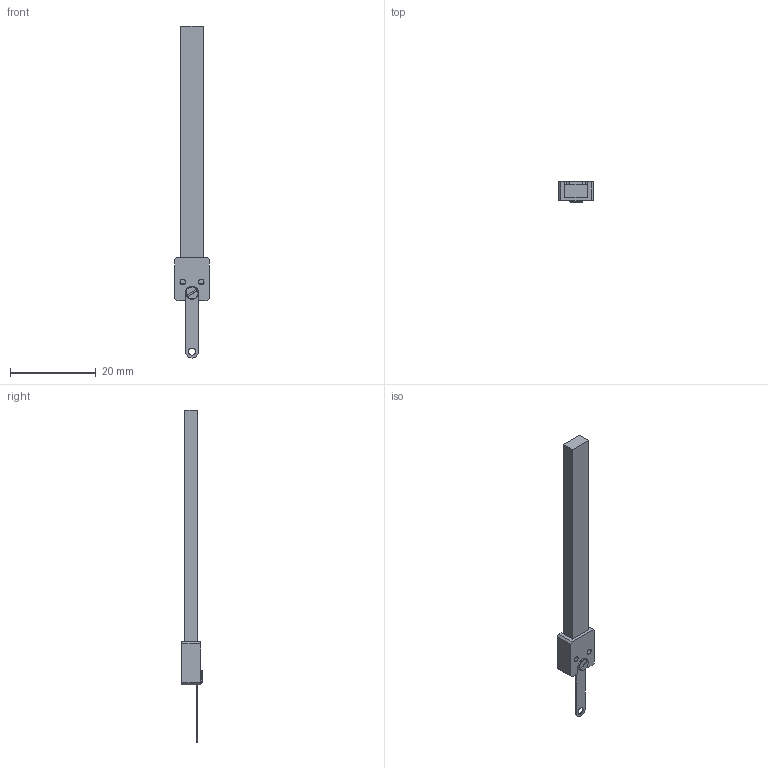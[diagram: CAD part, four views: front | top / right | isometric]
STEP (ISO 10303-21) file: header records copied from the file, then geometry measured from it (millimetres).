
FILE_DESCRIPTION (( 'STEP AP214' ), '1' );
FILE_NAME ('LT4040D_DriveRod_060D1D2-PiezoMotor.STEP', '2017-11-15T15:55:31', ( '' ), ( '' ), 'SwSTEP 2.0', 'SolidWorks 2017', '' );
FILE_SCHEMA (( 'AUTOMOTIVE_DESIGN' ));
Length unit declared in the file: millimetre
Products named in the file (2): LT4040D_DriveRod_060D1D2-PiezoMotor
Bounding box: 8 x 4.8 x 77.35 mm (x, y, z)
Volume: 1179 mm3; surface area: 1542 mm2
Topology: 4 solids, 4 shells, 64 faces, 166 edges, 109 vertices
Faces by surface type: plane 37, cylinder 20, cone 7
Entity records: 2065 total; most frequent: CARTESIAN_POINT 353, DIRECTION 349, ORIENTED_EDGE 332, EDGE_CURVE 166, AXIS2_PLACEMENT_3D 121, VERTEX_POINT 109, VECTOR 107, LINE 107
